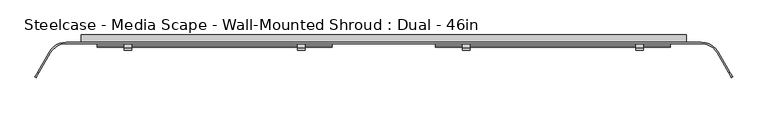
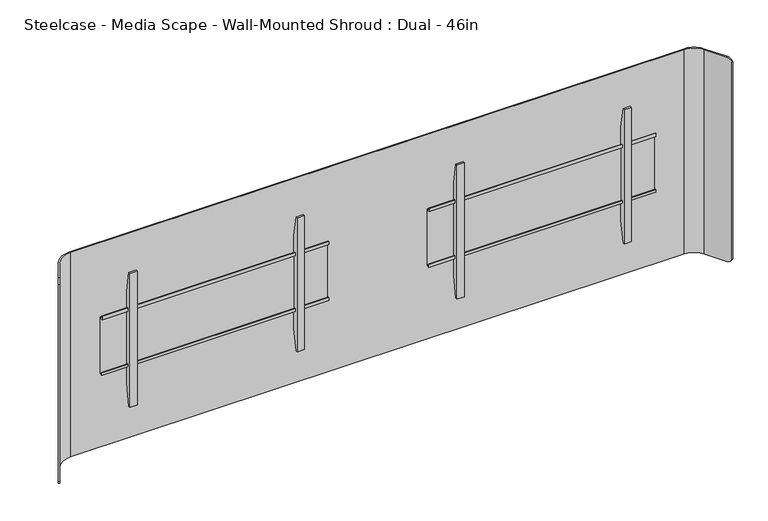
"""IFC4 building model written with IfcOpenShell, lengths in millimetres: furniture geometry, Steelcase - Media Scape - Wall-Mounted Shroud : Dual - 46in."""

from ifc_helpers import new_model, si_unit, frame, origin, place, context, project, spatial, polyline, circle_curve, outline, extrude, source, transform, mapped, element, save
from ifc_brep_helpers import plane_surface, cylinder_surface, revolved_surface, advanced_brep


def steelcase_media_scape_wall_mounted_shroud_dual_46in_777ef326(model_context):
    return source(origin(), model_context, "Body", "SolidModel", [
        extrude(outline(polyline([(-42.4942785, 1326.5504726), (-42.4942785, 1338.5645649), (-39.8272175, 1338.5645649), (-39.8272175, 1329.217461), (-29.9720009, 1329.217461), (-29.9720009, 1114.8922438), (-42.3164551, 1114.8922438), (-42.3164551, 1125.8142515), (-39.649394, 1125.8142515), (-39.649394, 1117.557052), (-32.6531824, 1117.557052), (-32.6531824, 1326.5504726), (-42.4942785, 1326.5504726)])), frame((179.451, 0.0, 0.0), z_axis=(1.0, 0.0, 0.0), x_axis=(0.0, 1.0, 0.0)), (0.0, 0.0, 1.0), 812.8),
        extrude(outline(polyline([(-32.6531824, 1397.4971148), (-32.6531824, 1045.6825607), (-46.5049349, 968.0546949), (-53.3399828, 968.0546949), (-53.3399828, 1476.0547192), (-46.5050076, 1476.0547192), (-32.6531824, 1397.4971148)])), frame((273.052426, 0.0, 0.0), z_axis=(1.0, 0.0, 0.0), x_axis=(0.0, 1.0, 0.0)), (0.0, 0.0, 1.0), 26.1592872),
        extrude(outline(polyline([(-32.6531824, 1397.4971148), (-32.6531824, 1045.6825607), (-46.5049349, 968.0546949), (-53.3399828, 968.0546949), (-53.3399828, 1476.0547192), (-46.5050076, 1476.0547192), (-32.6531824, 1397.4971148)])), frame((872.4902868, 0.0, 0.0), z_axis=(1.0, 0.0, 0.0), x_axis=(0.0, 1.0, 0.0)), (0.0, 0.0, 1.0), 26.1592872),
        extrude(outline(polyline([(-42.4942785, 1326.5504726), (-42.4942785, 1338.5645649), (-39.8272175, 1338.5645649), (-39.8272175, 1329.217461), (-29.9720009, 1329.217461), (-29.9720009, 1114.8922438), (-42.3164551, 1114.8922438), (-42.3164551, 1125.8142515), (-39.649394, 1125.8142515), (-39.649394, 1117.557052), (-32.6531824, 1117.557052), (-32.6531824, 1326.5504726), (-42.4942785, 1326.5504726)])), frame((-992.251, 0.0, 0.0), z_axis=(1.0, 0.0, 0.0), x_axis=(0.0, 1.0, 0.0)), (0.0, 0.0, 1.0), 812.8),
        extrude(outline(polyline([(-32.6531824, 1397.4971148), (-32.6531824, 1045.6825607), (-46.5049349, 968.0546949), (-53.3399828, 968.0546949), (-53.3399828, 1476.0547192), (-46.5050076, 1476.0547192), (-32.6531824, 1397.4971148)])), frame((-299.2117132, 0.0, 0.0), z_axis=(1.0, 0.0, 0.0), x_axis=(0.0, 1.0, 0.0)), (0.0, 0.0, 1.0), 26.1592872),
        extrude(outline(polyline([(-32.6531824, 1397.4971148), (-32.6531824, 1045.6825607), (-46.5049349, 968.0546949), (-53.3399828, 968.0546949), (-53.3399828, 1476.0547192), (-46.5050076, 1476.0547192), (-32.6531824, 1397.4971148)])), frame((-898.649574, 0.0, 0.0), z_axis=(1.0, 0.0, 0.0), x_axis=(0.0, 1.0, 0.0)), (0.0, 0.0, 1.0), 26.1592872),
        advanced_brep(
        [(-1154.5586135, -61.722, 1610.614), (-1099.566002, -29.9720009, 1610.614), (1099.566, -29.9720009, 1610.614), (1154.5586135, -61.722, 1610.614), (1194.679586, -131.2135628, 1610.614), (1198.6390541, -128.9275628, 1610.614), (1158.5180817, -59.436, 1610.614), (1099.566002, -25.4, 1610.614), (-1099.566, -25.4, 1610.614), (-1158.5180817, -59.436, 1610.614), (-1198.6421659, -128.9329524, 1610.614), (-1194.6826977, -131.2189524, 1610.614), (-1158.5180817, -59.436, 835.914), (-1099.566002, -25.4, 835.914), (1099.566, -25.4, 835.914), (1158.5180817, -59.436, 835.914), (1198.6906629, -129.0169518, 835.914), (1194.7311948, -131.3029518, 835.914), (1154.5586135, -61.722, 835.914), (1099.566002, -29.9720009, 835.914), (-1099.566, -29.9720009, 835.914), (-1154.5586135, -61.722, 835.914), (-1194.7454014, -131.3275584, 835.914), (-1198.7048695, -129.0415584, 835.914), (-1208.2090632, -145.5033047, 849.5242766), (-1208.2090632, -145.5033047, 1596.6227735), (-1204.2495951, -147.7893047, 1596.6227735), (-1204.2495951, -147.7893047, 849.5242766), (1204.2270866, -147.7503189, 849.4756893), (1204.2270866, -147.7503189, 1596.7433849), (1208.1865547, -145.4643189, 1596.7433849), (1208.1865547, -145.4643189, 849.4756893)],
        [
            (0, 1, circle_curve(frame((-1099.566002, -93.4719991, 1610.614), z_axis=(0.0, 0.0, -1.0), x_axis=(0.0, 1.0, 0.0)), 63.4999981)),
            (1, 2),
            (2, 3, circle_curve(frame((1099.566002, -93.4719991, 1610.614), z_axis=(0.0, 0.0, -1.0), x_axis=(0.0, 1.0, 0.0)), 63.4999981)),
            (3, 4),
            (4, 5),
            (5, 6),
            (6, 7, circle_curve(frame((1099.5660004, -93.472, 1610.614), z_axis=(0.0, 0.0, 1.0), x_axis=(0.0, 1.0, 0.0)), 68.072)),
            (7, 8),
            (8, 9, circle_curve(frame((-1099.5660004, -93.472, 1610.614), z_axis=(0.0, 0.0, 1.0), x_axis=(0.0, 1.0, 0.0)), 68.072)),
            (9, 10),
            (10, 11),
            (11, 0),
            (12, 13, circle_curve(frame((-1099.5660004, -93.472, 835.914), z_axis=(0.0, 0.0, -1.0), x_axis=(0.0, 1.0, 0.0)), 68.072)),
            (13, 14),
            (14, 15, circle_curve(frame((1099.5660004, -93.472, 835.914), z_axis=(0.0, 0.0, -1.0), x_axis=(0.0, 1.0, 0.0)), 68.072)),
            (15, 16),
            (16, 17),
            (17, 18),
            (18, 19, circle_curve(frame((1099.566002, -93.4719991, 835.914), z_axis=(0.0, 0.0, 1.0), x_axis=(0.0, 1.0, 0.0)), 63.4999981)),
            (19, 20),
            (20, 21, circle_curve(frame((-1099.566002, -93.4719991, 835.914), z_axis=(0.0, 0.0, 1.0), x_axis=(0.0, 1.0, 0.0)), 63.4999981)),
            (21, 22),
            (22, 23),
            (23, 12),
            (0, 21),
            (20, 1),
            (8, 13),
            (12, 9),
            (23, 24, circle_curve(frame((-1198.7048695, -129.0415584, 855.9928872), z_axis=(-0.8660254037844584, 0.49999999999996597, 0.0), x_axis=(-0.49999999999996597, -0.8660254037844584, 0.0)), 20.0788872)),
            (24, 25),
            (25, 10, circle_curve(frame((-1198.6421659, -128.9329524, 1590.5351128), z_axis=(-0.8660254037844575, 0.49999999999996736, 0.0), x_axis=(-0.49999999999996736, -0.8660254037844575, 0.0)), 20.0788872)),
            (26, 25),
            (24, 27),
            (27, 26),
            (11, 26, circle_curve(frame((-1194.6826977, -131.2189524, 1590.5351128), z_axis=(0.8660254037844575, -0.49999999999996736, 0.0), x_axis=(-0.49999999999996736, -0.8660254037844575, 0.0)), 20.0788872)),
            (27, 22, circle_curve(frame((-1194.7454014, -131.3275584, 855.9928872), z_axis=(0.8660254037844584, -0.49999999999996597, 0.0), x_axis=(-0.49999999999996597, -0.8660254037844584, 0.0)), 20.0788872)),
            (7, 14),
            (19, 2),
            (3, 18),
            (17, 28, circle_curve(frame((1194.7311948, -131.3029518, 855.9928872), z_axis=(-0.8660254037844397, -0.49999999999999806, 0.0), x_axis=(0.49999999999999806, -0.8660254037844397, 0.0)), 20.0788872)),
            (28, 29),
            (29, 4, circle_curve(frame((1194.679586, -131.2135628, 1590.5351128), z_axis=(-0.8660254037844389, -0.4999999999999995, 0.0), x_axis=(0.4999999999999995, -0.8660254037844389, 0.0)), 20.0788872)),
            (30, 29),
            (28, 31),
            (31, 30),
            (15, 6),
            (5, 30, circle_curve(frame((1198.6390541, -128.9275628, 1590.5351128), z_axis=(0.8660254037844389, 0.4999999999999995, 0.0), x_axis=(0.4999999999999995, -0.8660254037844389, 0.0)), 20.0788872)),
            (31, 16, circle_curve(frame((1198.6906629, -129.0169518, 855.9928872), z_axis=(0.8660254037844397, 0.49999999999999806, 0.0), x_axis=(0.49999999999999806, -0.8660254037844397, 0.0)), 20.0788872)),
        ],
        [
            plane_surface(frame((-1099.566002, -29.9720009, 1610.614), z_axis=(0.0, 0.0, 1.0), x_axis=(1.0, 0.0, 0.0))),
            plane_surface(frame((-1099.566002, -29.9720009, 835.914), z_axis=(0.0, 0.0, -1.0), x_axis=(-1.0, 0.0, 0.0))),
            revolved_surface(polyline([(-1099.566002, -29.972001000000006, 835.914), (-1099.566002, -29.972001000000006, 1610.614)]), (-1099.566002, -93.4719991, 835.914), (0.0, 0.0, -1.0)),
            cylinder_surface(frame((-1099.5660004, -93.472, 835.914), z_axis=(0.0, 0.0, 1.0), x_axis=(0.0, 1.0, 0.0)), 68.072),
            plane_surface(frame((-1158.5180817, -59.436, 1610.614), z_axis=(-0.8660254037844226, 0.5000000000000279, 0.0), x_axis=(0.0, 0.0, -1.0))),
            plane_surface(frame((-1208.2090632, -145.5033047, 1610.614), z_axis=(-0.5000000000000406, -0.8660254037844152, 0.0), x_axis=(0.0, 0.0, -1.0))),
            plane_surface(frame((-1204.2495951, -147.7893047, 1610.614), z_axis=(0.8660254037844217, -0.5000000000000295, 0.0), x_axis=(0.0, 0.0, -1.0))),
            plane_surface(frame((1099.566, -25.4, 1610.614), z_axis=(0.0, 1.0, 0.0), x_axis=(0.0, 0.0, -1.0))),
            plane_surface(frame((-1099.566, -29.9720009, 1610.614), z_axis=(0.0, -1.0, 0.0), x_axis=(0.0, 0.0, -1.0))),
            plane_surface(frame((1154.5586135, -61.722, 1610.614), z_axis=(-0.8660254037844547, -0.4999999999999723, 0.0), x_axis=(0.0, 0.0, -1.0))),
            plane_surface(frame((1204.2270866, -147.7503189, 1610.614), z_axis=(0.4999999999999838, -0.866025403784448, 0.0), x_axis=(0.0, 0.0, -1.0))),
            plane_surface(frame((1208.1865547, -145.4643189, 1610.614), z_axis=(0.8660254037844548, 0.49999999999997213, 0.0), x_axis=(0.0, 0.0, -1.0))),
            cylinder_surface(frame((1099.5660004, -93.472, 835.914), z_axis=(0.0, 0.0, 1.0), x_axis=(0.0, 1.0, 0.0)), 68.072),
            revolved_surface(polyline([(1099.566002, -29.972001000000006, 835.914), (1099.566002, -29.972001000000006, 1610.614)]), (1099.566002, -93.4719991, 835.914), (0.0, 0.0, -1.0)),
            cylinder_surface(frame((-1194.6826977, -131.2189524, 1590.5351128), z_axis=(0.8660254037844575, -0.49999999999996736, 0.0), x_axis=(-0.49999999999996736, -0.8660254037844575, 0.0)), 20.0788872),
            cylinder_surface(frame((-1194.7454014, -131.3275584, 855.9928872), z_axis=(0.8660254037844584, -0.49999999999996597, 0.0), x_axis=(-0.49999999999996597, -0.8660254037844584, 0.0)), 20.0788872),
            cylinder_surface(frame((1209.7864297, -122.4916225, 1590.5351128), z_axis=(0.8660254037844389, 0.4999999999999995, 0.0), x_axis=(0.4999999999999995, -0.8660254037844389, 0.0)), 20.0788872),
            cylinder_surface(frame((1206.9789695, -124.2316958, 855.9928872), z_axis=(0.8660254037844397, 0.49999999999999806, 0.0), x_axis=(0.49999999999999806, -0.8660254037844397, 0.0)), 20.0788872),
        ],
        [
            (0, [[1, 2, 3, 4, 5, 6, 7, 8, 9, 10, 11, 12]]),
            (1, [[13, 14, 15, 16, 17, 18, 19, 20, 21, 22, 23, 24]]),
            (2, [[-1, 25, -21, 26]]),
            (3, [[-9, 27, -13, 28]]),
            (4, [[-28, -24, 29, 30, 31, -10]]),
            (5, [[32, -30, 33, 34]]),
            (6, [[-25, -12, 35, -34, 36, -22]]),
            (7, [[-8, 37, -14, -27]]),
            (8, [[-2, -26, -20, 38]]),
            (9, [[39, -18, 40, 41, 42, -4]]),
            (10, [[43, -41, 44, 45]]),
            (11, [[46, -6, 47, -45, 48, -16]]),
            (12, [[-7, -46, -15, -37]]),
            (13, [[-3, -38, -19, -39]]),
            (14, [[-11, -31, -32, -35]]),
            (15, [[-23, -36, -33, -29]]),
            (16, [[-5, -42, -43, -47]]),
            (17, [[-17, -48, -44, -40]]),
        ],
    ),
        extrude(outline(polyline([(912.1648167, 984.2499879), (912.1648167, 1047.75), (1534.414, 1047.75), (1534.414, -1047.75), (912.1648167, -1047.75), (912.1648167, -985.2433465), (1470.9139516, -985.2433465), (1470.9139516, 984.2499879), (912.1648167, 984.2499879)])), frame((0.0, -25.4, 0.0), z_axis=(0.0, 1.0, 0.0), x_axis=(0.0, 0.0, 1.0)), (0.0, 0.0, 1.0), 25.4),
    ])


if __name__ == "__main__":
    model = new_model("IFC4")
    model_context = context("Model", 3, world=origin())
    ifc_project = project(units=[si_unit("LENGTHUNIT", "METRE", prefix="MILLI")], contexts=[model_context])
    site = spatial("IfcSite", under=ifc_project)
    building = spatial("IfcBuilding", under=site)
    placement = place(None, origin())
    steelcase_media_scape_wall_mounted_shroud_dual_46in_shape = steelcase_media_scape_wall_mounted_shroud_dual_46in_777ef326(model_context)
    element("IfcFurniture", 1, ObjectType="Steelcase - Media Scape - Wall-Mounted Shroud : Dual - 46in", at=placement, inside=building, context=model_context, shape_type="MappedRepresentation", body=[
        mapped(steelcase_media_scape_wall_mounted_shroud_dual_46in_shape, transform((0.0, 0.0, 0.0), x_axis=(1.0, 0.0, 0.0), y_axis=(0.0, 1.0, 0.0), z_axis=(0.0, 0.0, 1.0))),
    ])
    save(model, "model.ifc")
